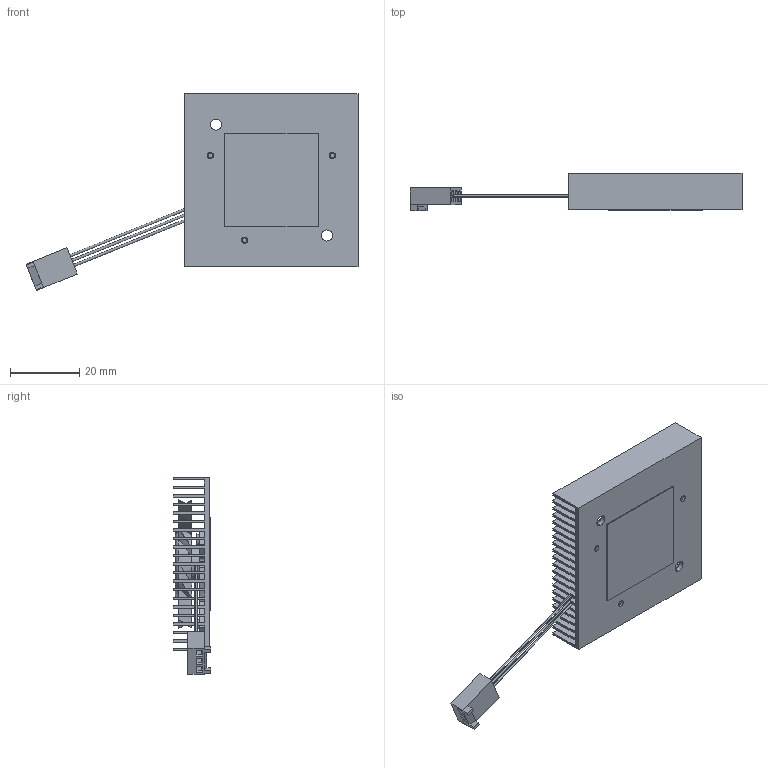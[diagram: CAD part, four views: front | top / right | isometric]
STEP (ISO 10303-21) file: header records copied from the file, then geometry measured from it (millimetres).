
FILE_DESCRIPTION (( 'STEP AP214' ), '1' );
FILE_NAME ('SZ12S (NONE).STEP', '2023-02-15T01:15:47', ( '' ), ( '' ), 'SwSTEP 2.0', 'SolidWorks 2020', '' );
FILE_SCHEMA (( 'AUTOMOTIVE_DESIGN' ));
Length unit declared in the file: millimetre
Products named in the file (1): SZ12S (NONE)
Bounding box: 95.86 x 10.8 x 56.87 mm (x, y, z)
Volume: 9144.4 mm3; surface area: 19466.1 mm2
Topology: 7 solids, 7 shells, 885 faces, 2416 edges, 1595 vertices
Faces by surface type: plane 529, bspline 194, cylinder 118, cone 42, torus 2
Entity records: 48508 total; most frequent: CARTESIAN_POINT 17895, ORIENTED_EDGE 4820, DIRECTION 3450, EDGE_CURVE 2410, VERTEX_POINT 1595, LINE 1514, VECTOR 1514, AXIS2_PLACEMENT_3D 968
